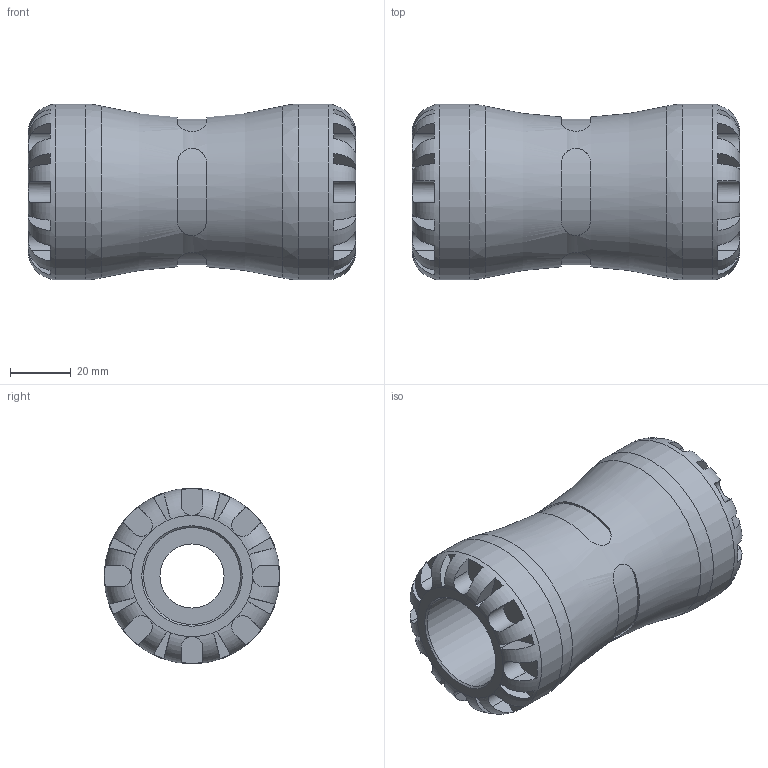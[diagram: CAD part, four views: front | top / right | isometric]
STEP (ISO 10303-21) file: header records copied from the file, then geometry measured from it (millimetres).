
FILE_DESCRIPTION(/* description */ ('PLASSON COUPLER METRIC TO IMPERIAL 32X1" SERIES 1'),/* implementation_level */ '2;1');
FILE_NAME(/* name */ 'C:\Dropbox\KIMPROJECTS-Inventor\99-16-3568-Processing\1001M\1001M6032010.ipt.stp',/* time_stamp */ '2017-01-22T10:47:18+02:00',/* author */ ('KIM'),/* organization */ (''),/* preprocessor_version */ 'ST-DEVELOPER v15.6',/* originating_system */ 'Autodesk Inventor 2015',/* authorisation */ '');
FILE_SCHEMA (('AUTOMOTIVE_DESIGN { 1 0 10303 214 3 1 1 }'));
Length unit declared in the file: millimetre
Products named in the file (1): 1001M6032010
Bounding box: 108 x 58 x 58 mm (x, y, z)
Volume: 169718.2 mm3; surface area: 34539.4 mm2
Topology: 1 solids, 1 shells, 164 faces, 419 edges, 262 vertices
Faces by surface type: plane 108, cylinder 49, torus 3, cone 2, bspline 2
Full cylindrical faces by diameter (mm): 21.167 x1, 25.4 x1, 32 x1, 58 x2
Entity records: 6444 total; most frequent: CARTESIAN_POINT 2475, ORIENTED_EDGE 808, DIRECTION 762, EDGE_CURVE 404, AXIS2_PLACEMENT_3D 309, VERTEX_POINT 258, EDGE_LOOP 182, STYLED_ITEM 165
